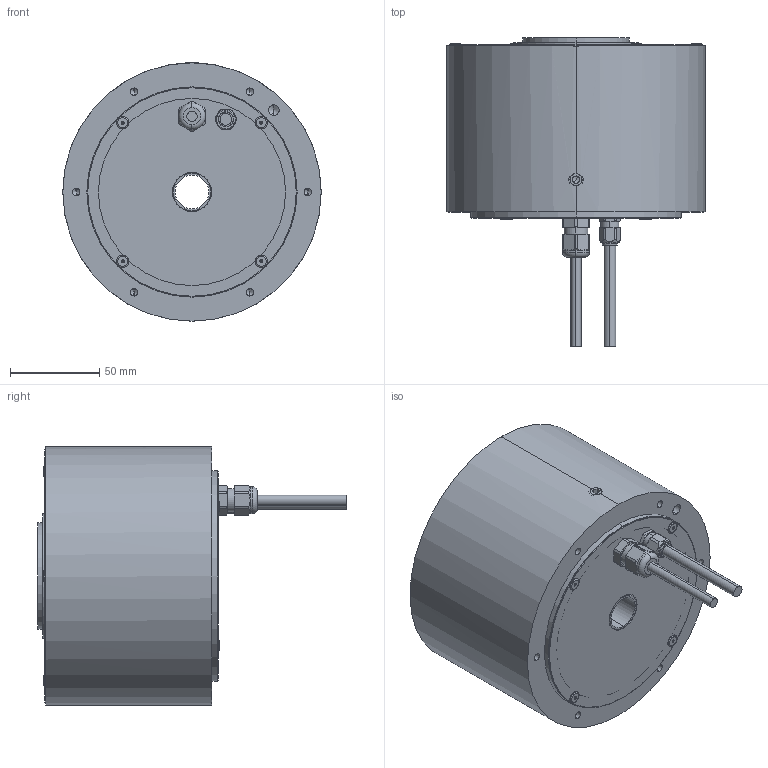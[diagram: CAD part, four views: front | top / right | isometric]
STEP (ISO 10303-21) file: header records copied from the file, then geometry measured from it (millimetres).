
FILE_DESCRIPTION (( 'STEP AP214' ), '1' );
FILE_NAME ('ND140-95-LSP-UC(ABS).step', '2025-03-11T00:59:39', ( '' ), ( '' ), 'SwSTEP 2.0', 'SolidWorks 2024', '' );
FILE_SCHEMA (( 'AUTOMOTIVE_DESIGN' ));
Length unit declared in the file: millimetre
Products named in the file (1): ND140-95-LSP-UC(ABS)
Bounding box: 145 x 173.3 x 145 mm (x, y, z)
Volume: 519388.7 mm3; surface area: 175097.7 mm2
Topology: 17 solids, 17 shells, 680 faces, 1708 edges, 1049 vertices
Faces by surface type: cylinder 378, cone 137, plane 111, torus 32, sphere 22
Entity records: 21289 total; most frequent: CARTESIAN_POINT 4952, DIRECTION 3532, ORIENTED_EDGE 3264, EDGE_CURVE 1632, AXIS2_PLACEMENT_3D 1453, VERTEX_POINT 1049, EDGE_LOOP 777, CIRCLE 772
